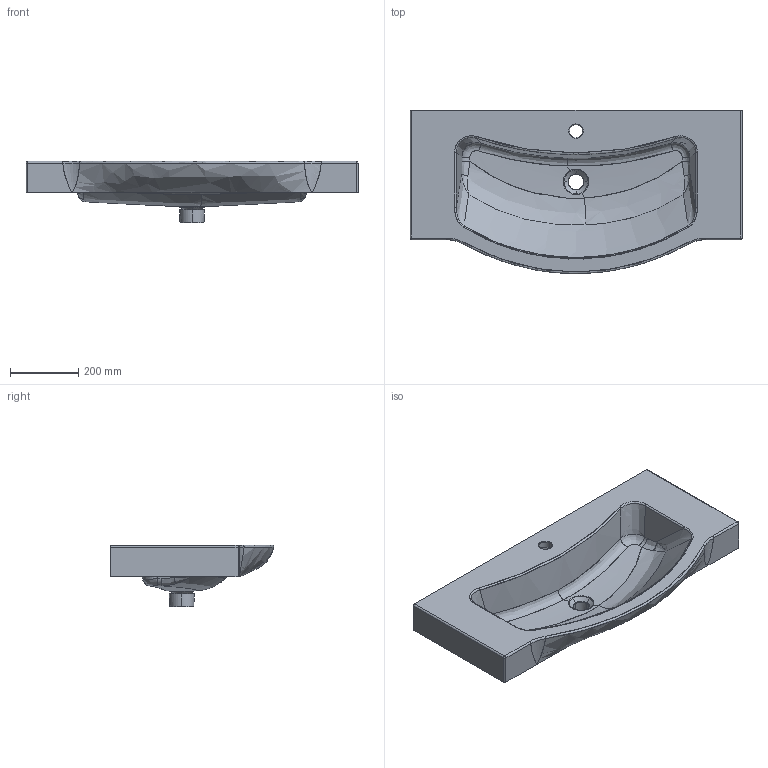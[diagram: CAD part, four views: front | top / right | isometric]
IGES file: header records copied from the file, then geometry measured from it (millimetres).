
Start section: START RECORD GO HERE.
Global section: file name: 3D BRENTA 98 art 8545.igs; native system: DASSAULT SYSTEMES CATIA V5 R19 - www.3ds.com; preprocessor: CATIA Version 5 Release 19 SP 5 ; author: Luca; organization: DESKTOP-V7SON24; date: 20220213.154626; units: millimetre
Bounding box: 975 x 479.73 x 180 mm (x, y, z)
Surface area: 913246.9 mm2 (no closed solid volume)
Topology: 0 solids, 0 shells, 79 faces, 364 edges, 358 vertices
Faces by surface type: bspline 50, revolution 20, plane 9
